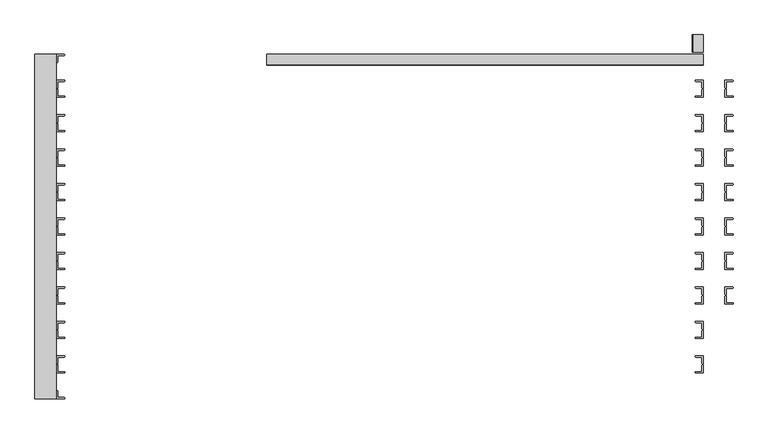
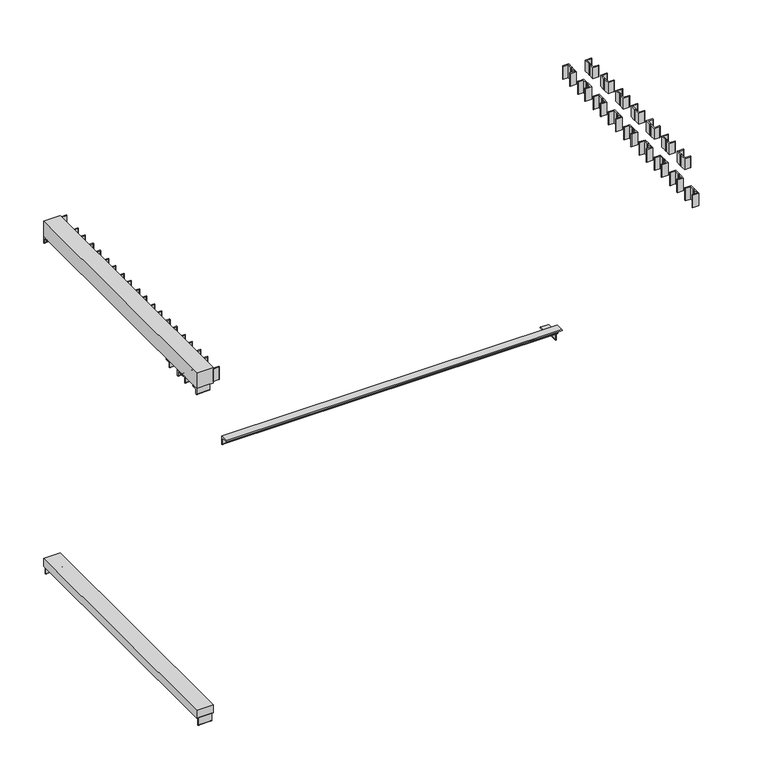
"""IFC4 building model written with IfcOpenShell, lengths in millimetres: proxy geometry, Ponto de ônibus_final : Ponto de ônibus_final."""

from ifc_helpers import new_model, si_unit, point, frame, frame_2d, origin, place, context, project, spatial, polyline, circle_curve, trimmed, segment, composite_curve, outline, extrude, source, transform, mapped, element, save


def generic_models_5568da9d(model_context):
    return source(origin(), model_context, "Body", "SweptSolid", [
        extrude(outline(composite_curve([segment(polyline([(-1420.0, 2165.075), (-1420.0, 2200.0), (-1385.075, 2200.0)]), True, "CONTINUOUS"), segment(trimmed(circle_curve(frame_2d((-1385.075, 2196.825)), 3.175), [point((-1385.075, 2200.0))], [point((-1385.075, 2193.65))], False, "CARTESIAN"), True, "CONTINUOUS"), segment(polyline([(-1385.075, 2193.65), (-1413.65, 2193.65), (-1413.65, 2165.075)]), True, "CONTINUOUS"), segment(trimmed(circle_curve(frame_2d((-1416.825, 2165.075)), 3.175), [point((-1413.65, 2165.075))], [point((-1420.0, 2165.075))], False, "CARTESIAN"), True, "CONTINUOUS")], self_intersect=False)), frame((-2100.0, 0.0, 0.0), z_axis=(1.0, 0.0, 0.0), x_axis=(0.0, 1.0, 0.0)), (0.0, 0.0, 1.0), 70.0),
        extrude(outline(composite_curve([segment(trimmed(circle_curve(frame_2d((-1503.175, 2165.075)), 3.175), [point((-1500.0, 2165.075))], [point((-1506.35, 2165.075))], False, "CARTESIAN"), True, "CONTINUOUS"), segment(polyline([(-1506.35, 2165.075), (-1506.35, 2193.65), (-1534.925, 2193.65)]), True, "CONTINUOUS"), segment(trimmed(circle_curve(frame_2d((-1534.925, 2196.825)), 3.175), [point((-1534.925, 2193.65))], [point((-1534.925, 2200.0))], False, "CARTESIAN"), True, "CONTINUOUS"), segment(polyline([(-1534.925, 2200.0), (-1500.0, 2200.0), (-1500.0, 2165.075)]), True, "CONTINUOUS")], self_intersect=False)), frame((-2100.1200113, 0.0, 0.0), z_axis=(1.0, 0.0, 0.0), x_axis=(0.0, 1.0, 0.0)), (0.0, 0.0, 1.0), 70.1200113),
        extrude(outline(composite_curve([segment(polyline([(-1580.0, 2165.075), (-1580.0, 2200.0), (-1545.075, 2200.0)]), True, "CONTINUOUS"), segment(trimmed(circle_curve(frame_2d((-1545.075, 2196.825)), 3.175), [point((-1545.075, 2200.0))], [point((-1545.075, 2193.65))], False, "CARTESIAN"), True, "CONTINUOUS"), segment(polyline([(-1545.075, 2193.65), (-1573.65, 2193.65), (-1573.65, 2165.075)]), True, "CONTINUOUS"), segment(trimmed(circle_curve(frame_2d((-1576.825, 2165.075)), 3.175), [point((-1573.65, 2165.075))], [point((-1580.0, 2165.075))], False, "CARTESIAN"), True, "CONTINUOUS")], self_intersect=False)), frame((-2100.0, 0.0, 0.0), z_axis=(1.0, 0.0, 0.0), x_axis=(0.0, 1.0, 0.0)), (0.0, 0.0, 1.0), 70.0),
        extrude(outline(composite_curve([segment(trimmed(circle_curve(frame_2d((-103.175, 2165.075)), 3.175), [point((-100.0, 2165.075))], [point((-106.35, 2165.075))], False, "CARTESIAN"), True, "CONTINUOUS"), segment(polyline([(-106.35, 2165.075), (-106.35, 2193.65), (-134.925, 2193.65)]), True, "CONTINUOUS"), segment(trimmed(circle_curve(frame_2d((-134.925, 2196.825)), 3.175), [point((-134.925, 2193.65))], [point((-134.925, 2200.0))], False, "CARTESIAN"), True, "CONTINUOUS"), segment(polyline([(-134.925, 2200.0), (-100.0, 2200.0), (-100.0, 2165.075)]), True, "CONTINUOUS")], self_intersect=False)), frame((-2100.1200113, 0.0, 0.0), z_axis=(1.0, 0.0, 0.0), x_axis=(0.0, 1.0, 0.0)), (0.0, 0.0, 1.0), 80.2400226),
        extrude(outline(composite_curve([segment(polyline([(-1700.0, 2165.075), (-1700.0, 2200.0), (-1665.075, 2200.0)]), True, "CONTINUOUS"), segment(trimmed(circle_curve(frame_2d((-1665.075, 2196.825)), 3.175), [point((-1665.075, 2200.0))], [point((-1665.075, 2193.65))], False, "CARTESIAN"), True, "CONTINUOUS"), segment(polyline([(-1665.075, 2193.65), (-1693.65, 2193.65), (-1693.65, 2165.075)]), True, "CONTINUOUS"), segment(trimmed(circle_curve(frame_2d((-1696.825, 2165.075)), 3.175), [point((-1693.65, 2165.075))], [point((-1700.0, 2165.075))], False, "CARTESIAN"), True, "CONTINUOUS")], self_intersect=False)), frame((-2100.0, 0.0, 0.0), z_axis=(1.0, 0.0, 0.0), x_axis=(0.0, 1.0, 0.0)), (0.0, 0.0, 1.0), 80.0),
        extrude(outline(composite_curve([segment(trimmed(circle_curve(frame_2d((-1965.075, -223.175)), 3.175), [point((-1965.075, -220.0))], [point((-1965.075, -226.35))], False, "CARTESIAN"), True, "CONTINUOUS"), segment(polyline([(-1965.075, -226.35), (-1993.65, -226.35), (-1993.65, -254.925)]), True, "CONTINUOUS"), segment(trimmed(circle_curve(frame_2d((-1996.825, -254.925)), 3.175), [point((-1993.65, -254.925))], [point((-2000.0, -254.925))], False, "CARTESIAN"), True, "CONTINUOUS"), segment(polyline([(-2000.0, -254.925), (-2000.0, -220.0), (-1965.075, -220.0)]), True, "CONTINUOUS")], self_intersect=False)), frame((0.0, 0.0, 2209.8799887), z_axis=(0.0, 0.0, 1.0), x_axis=(1.0, 0.0, 0.0)), (0.0, 0.0, 1.0), 70.1200113),
        extrude(outline(composite_curve([segment(polyline([(-1965.075, -300.0), (-2000.0, -300.0), (-2000.0, -265.075)]), True, "CONTINUOUS"), segment(trimmed(circle_curve(frame_2d((-1996.825, -265.075)), 3.175), [point((-2000.0, -265.075))], [point((-1993.65, -265.075))], False, "CARTESIAN"), True, "CONTINUOUS"), segment(polyline([(-1993.65, -265.075), (-1993.65, -293.65), (-1965.075, -293.65)]), True, "CONTINUOUS"), segment(trimmed(circle_curve(frame_2d((-1965.075, -296.825)), 3.175), [point((-1965.075, -293.65))], [point((-1965.075, -300.0))], False, "CARTESIAN"), True, "CONTINUOUS")], self_intersect=False)), frame((0.0, 0.0, 2210.0), z_axis=(0.0, 0.0, 1.0), x_axis=(1.0, 0.0, 0.0)), (0.0, 0.0, 1.0), 70.0),
        extrude(outline(composite_curve([segment(trimmed(circle_curve(frame_2d((-1965.075, -383.175)), 3.175), [point((-1965.075, -380.0))], [point((-1965.075, -386.35))], False, "CARTESIAN"), True, "CONTINUOUS"), segment(polyline([(-1965.075, -386.35), (-1993.65, -386.35), (-1993.65, -414.925)]), True, "CONTINUOUS"), segment(trimmed(circle_curve(frame_2d((-1996.825, -414.925)), 3.175), [point((-1993.65, -414.925))], [point((-2000.0, -414.925))], False, "CARTESIAN"), True, "CONTINUOUS"), segment(polyline([(-2000.0, -414.925), (-2000.0, -380.0), (-1965.075, -380.0)]), True, "CONTINUOUS")], self_intersect=False)), frame((0.0, 0.0, 2209.8799887), z_axis=(0.0, 0.0, 1.0), x_axis=(1.0, 0.0, 0.0)), (0.0, 0.0, 1.0), 70.1200113),
        extrude(outline(composite_curve([segment(polyline([(-1965.075, -460.0), (-2000.0, -460.0), (-2000.0, -425.075)]), True, "CONTINUOUS"), segment(trimmed(circle_curve(frame_2d((-1996.825, -425.075)), 3.175), [point((-2000.0, -425.075))], [point((-1993.65, -425.075))], False, "CARTESIAN"), True, "CONTINUOUS"), segment(polyline([(-1993.65, -425.075), (-1993.65, -453.65), (-1965.075, -453.65)]), True, "CONTINUOUS"), segment(trimmed(circle_curve(frame_2d((-1965.075, -456.825)), 3.175), [point((-1965.075, -453.65))], [point((-1965.075, -460.0))], False, "CARTESIAN"), True, "CONTINUOUS")], self_intersect=False)), frame((0.0, 0.0, 2210.0), z_axis=(0.0, 0.0, 1.0), x_axis=(1.0, 0.0, 0.0)), (0.0, 0.0, 1.0), 70.0),
        extrude(outline(composite_curve([segment(trimmed(circle_curve(frame_2d((-1965.075, -543.175)), 3.175), [point((-1965.075, -540.0))], [point((-1965.075, -546.35))], False, "CARTESIAN"), True, "CONTINUOUS"), segment(polyline([(-1965.075, -546.35), (-1993.65, -546.35), (-1993.65, -574.925)]), True, "CONTINUOUS"), segment(trimmed(circle_curve(frame_2d((-1996.825, -574.925)), 3.175), [point((-1993.65, -574.925))], [point((-2000.0, -574.925))], False, "CARTESIAN"), True, "CONTINUOUS"), segment(polyline([(-2000.0, -574.925), (-2000.0, -540.0), (-1965.075, -540.0)]), True, "CONTINUOUS")], self_intersect=False)), frame((0.0, 0.0, 2209.8799887), z_axis=(0.0, 0.0, 1.0), x_axis=(1.0, 0.0, 0.0)), (0.0, 0.0, 1.0), 70.1200113),
        extrude(outline(composite_curve([segment(polyline([(-1965.075, -620.0), (-2000.0, -620.0), (-2000.0, -585.075)]), True, "CONTINUOUS"), segment(trimmed(circle_curve(frame_2d((-1996.825, -585.075)), 3.175), [point((-2000.0, -585.075))], [point((-1993.65, -585.075))], False, "CARTESIAN"), True, "CONTINUOUS"), segment(polyline([(-1993.65, -585.075), (-1993.65, -613.65), (-1965.075, -613.65)]), True, "CONTINUOUS"), segment(trimmed(circle_curve(frame_2d((-1965.075, -616.825)), 3.175), [point((-1965.075, -613.65))], [point((-1965.075, -620.0))], False, "CARTESIAN"), True, "CONTINUOUS")], self_intersect=False)), frame((0.0, 0.0, 2210.0), z_axis=(0.0, 0.0, 1.0), x_axis=(1.0, 0.0, 0.0)), (0.0, 0.0, 1.0), 70.0),
        extrude(outline(composite_curve([segment(trimmed(circle_curve(frame_2d((-1965.075, -703.175)), 3.175), [point((-1965.075, -700.0))], [point((-1965.075, -706.35))], False, "CARTESIAN"), True, "CONTINUOUS"), segment(polyline([(-1965.075, -706.35), (-1993.65, -706.35), (-1993.65, -734.925)]), True, "CONTINUOUS"), segment(trimmed(circle_curve(frame_2d((-1996.825, -734.925)), 3.175), [point((-1993.65, -734.925))], [point((-2000.0, -734.925))], False, "CARTESIAN"), True, "CONTINUOUS"), segment(polyline([(-2000.0, -734.925), (-2000.0, -700.0), (-1965.075, -700.0)]), True, "CONTINUOUS")], self_intersect=False)), frame((0.0, 0.0, 2209.8799887), z_axis=(0.0, 0.0, 1.0), x_axis=(1.0, 0.0, 0.0)), (0.0, 0.0, 1.0), 70.1200113),
        extrude(outline(composite_curve([segment(polyline([(-1965.075, -780.0), (-2000.0, -780.0), (-2000.0, -745.075)]), True, "CONTINUOUS"), segment(trimmed(circle_curve(frame_2d((-1996.825, -745.075)), 3.175), [point((-2000.0, -745.075))], [point((-1993.65, -745.075))], False, "CARTESIAN"), True, "CONTINUOUS"), segment(polyline([(-1993.65, -745.075), (-1993.65, -773.65), (-1965.075, -773.65)]), True, "CONTINUOUS"), segment(trimmed(circle_curve(frame_2d((-1965.075, -776.825)), 3.175), [point((-1965.075, -773.65))], [point((-1965.075, -780.0))], False, "CARTESIAN"), True, "CONTINUOUS")], self_intersect=False)), frame((0.0, 0.0, 2210.0), z_axis=(0.0, 0.0, 1.0), x_axis=(1.0, 0.0, 0.0)), (0.0, 0.0, 1.0), 70.0),
        extrude(outline(composite_curve([segment(trimmed(circle_curve(frame_2d((-1965.075, -863.175)), 3.175), [point((-1965.075, -860.0))], [point((-1965.075, -866.35))], False, "CARTESIAN"), True, "CONTINUOUS"), segment(polyline([(-1965.075, -866.35), (-1993.65, -866.35), (-1993.65, -894.925)]), True, "CONTINUOUS"), segment(trimmed(circle_curve(frame_2d((-1996.825, -894.925)), 3.175), [point((-1993.65, -894.925))], [point((-2000.0, -894.925))], False, "CARTESIAN"), True, "CONTINUOUS"), segment(polyline([(-2000.0, -894.925), (-2000.0, -860.0), (-1965.075, -860.0)]), True, "CONTINUOUS")], self_intersect=False)), frame((0.0, 0.0, 2209.8799887), z_axis=(0.0, 0.0, 1.0), x_axis=(1.0, 0.0, 0.0)), (0.0, 0.0, 1.0), 70.1200113),
        extrude(outline(composite_curve([segment(polyline([(-1965.075, -940.0), (-2000.0, -940.0), (-2000.0, -905.075)]), True, "CONTINUOUS"), segment(trimmed(circle_curve(frame_2d((-1996.825, -905.075)), 3.175), [point((-2000.0, -905.075))], [point((-1993.65, -905.075))], False, "CARTESIAN"), True, "CONTINUOUS"), segment(polyline([(-1993.65, -905.075), (-1993.65, -933.65), (-1965.075, -933.65)]), True, "CONTINUOUS"), segment(trimmed(circle_curve(frame_2d((-1965.075, -936.825)), 3.175), [point((-1965.075, -933.65))], [point((-1965.075, -940.0))], False, "CARTESIAN"), True, "CONTINUOUS")], self_intersect=False)), frame((0.0, 0.0, 2210.0), z_axis=(0.0, 0.0, 1.0), x_axis=(1.0, 0.0, 0.0)), (0.0, 0.0, 1.0), 70.0),
        extrude(outline(composite_curve([segment(trimmed(circle_curve(frame_2d((-1965.075, -1023.175)), 3.175), [point((-1965.075, -1020.0))], [point((-1965.075, -1026.35))], False, "CARTESIAN"), True, "CONTINUOUS"), segment(polyline([(-1965.075, -1026.35), (-1993.65, -1026.35), (-1993.65, -1054.925)]), True, "CONTINUOUS"), segment(trimmed(circle_curve(frame_2d((-1996.825, -1054.925)), 3.175), [point((-1993.65, -1054.925))], [point((-2000.0, -1054.925))], False, "CARTESIAN"), True, "CONTINUOUS"), segment(polyline([(-2000.0, -1054.925), (-2000.0, -1020.0), (-1965.075, -1020.0)]), True, "CONTINUOUS")], self_intersect=False)), frame((0.0, 0.0, 2209.8799887), z_axis=(0.0, 0.0, 1.0), x_axis=(1.0, 0.0, 0.0)), (0.0, 0.0, 1.0), 70.1200113),
        extrude(outline(composite_curve([segment(polyline([(-1965.075, -1100.0), (-2000.0, -1100.0), (-2000.0, -1065.075)]), True, "CONTINUOUS"), segment(trimmed(circle_curve(frame_2d((-1996.825, -1065.075)), 3.175), [point((-2000.0, -1065.075))], [point((-1993.65, -1065.075))], False, "CARTESIAN"), True, "CONTINUOUS"), segment(polyline([(-1993.65, -1065.075), (-1993.65, -1093.65), (-1965.075, -1093.65)]), True, "CONTINUOUS"), segment(trimmed(circle_curve(frame_2d((-1965.075, -1096.825)), 3.175), [point((-1965.075, -1093.65))], [point((-1965.075, -1100.0))], False, "CARTESIAN"), True, "CONTINUOUS")], self_intersect=False)), frame((0.0, 0.0, 2210.0), z_axis=(0.0, 0.0, 1.0), x_axis=(1.0, 0.0, 0.0)), (0.0, 0.0, 1.0), 70.0),
        extrude(outline(composite_curve([segment(trimmed(circle_curve(frame_2d((-1965.075, -1183.175)), 3.175), [point((-1965.075, -1180.0))], [point((-1965.075, -1186.35))], False, "CARTESIAN"), True, "CONTINUOUS"), segment(polyline([(-1965.075, -1186.35), (-1993.65, -1186.35), (-1993.65, -1214.925)]), True, "CONTINUOUS"), segment(trimmed(circle_curve(frame_2d((-1996.825, -1214.925)), 3.175), [point((-1993.65, -1214.925))], [point((-2000.0, -1214.925))], False, "CARTESIAN"), True, "CONTINUOUS"), segment(polyline([(-2000.0, -1214.925), (-2000.0, -1180.0), (-1965.075, -1180.0)]), True, "CONTINUOUS")], self_intersect=False)), frame((0.0, 0.0, 2209.8799887), z_axis=(0.0, 0.0, 1.0), x_axis=(1.0, 0.0, 0.0)), (0.0, 0.0, 1.0), 70.1200113),
        extrude(outline(composite_curve([segment(polyline([(-1965.075, -1260.0), (-2000.0, -1260.0), (-2000.0, -1225.075)]), True, "CONTINUOUS"), segment(trimmed(circle_curve(frame_2d((-1996.825, -1225.075)), 3.175), [point((-2000.0, -1225.075))], [point((-1993.65, -1225.075))], False, "CARTESIAN"), True, "CONTINUOUS"), segment(polyline([(-1993.65, -1225.075), (-1993.65, -1253.65), (-1965.075, -1253.65)]), True, "CONTINUOUS"), segment(trimmed(circle_curve(frame_2d((-1965.075, -1256.825)), 3.175), [point((-1965.075, -1253.65))], [point((-1965.075, -1260.0))], False, "CARTESIAN"), True, "CONTINUOUS")], self_intersect=False)), frame((0.0, 0.0, 2210.0), z_axis=(0.0, 0.0, 1.0), x_axis=(1.0, 0.0, 0.0)), (0.0, 0.0, 1.0), 70.0),
        extrude(outline(composite_curve([segment(trimmed(circle_curve(frame_2d((-1965.075, -1343.175)), 3.175), [point((-1965.075, -1340.0))], [point((-1965.075, -1346.35))], False, "CARTESIAN"), True, "CONTINUOUS"), segment(polyline([(-1965.075, -1346.35), (-1993.65, -1346.35), (-1993.65, -1374.925)]), True, "CONTINUOUS"), segment(trimmed(circle_curve(frame_2d((-1996.825, -1374.925)), 3.175), [point((-1993.65, -1374.925))], [point((-2000.0, -1374.925))], False, "CARTESIAN"), True, "CONTINUOUS"), segment(polyline([(-2000.0, -1374.925), (-2000.0, -1340.0), (-1965.075, -1340.0)]), True, "CONTINUOUS")], self_intersect=False)), frame((0.0, 0.0, 2209.8799887), z_axis=(0.0, 0.0, 1.0), x_axis=(1.0, 0.0, 0.0)), (0.0, 0.0, 1.0), 70.1200113),
        extrude(outline(composite_curve([segment(polyline([(-1965.075, -1420.0), (-2000.0, -1420.0), (-2000.0, -1385.075)]), True, "CONTINUOUS"), segment(trimmed(circle_curve(frame_2d((-1996.825, -1385.075)), 3.175), [point((-2000.0, -1385.075))], [point((-1993.65, -1385.075))], False, "CARTESIAN"), True, "CONTINUOUS"), segment(polyline([(-1993.65, -1385.075), (-1993.65, -1413.65), (-1965.075, -1413.65)]), True, "CONTINUOUS"), segment(trimmed(circle_curve(frame_2d((-1965.075, -1416.825)), 3.175), [point((-1965.075, -1413.65))], [point((-1965.075, -1420.0))], False, "CARTESIAN"), True, "CONTINUOUS")], self_intersect=False)), frame((0.0, 0.0, 2210.0), z_axis=(0.0, 0.0, 1.0), x_axis=(1.0, 0.0, 0.0)), (0.0, 0.0, 1.0), 70.0),
        extrude(outline(composite_curve([segment(trimmed(circle_curve(frame_2d((-1965.075, -1503.175)), 3.175), [point((-1965.075, -1500.0))], [point((-1965.075, -1506.35))], False, "CARTESIAN"), True, "CONTINUOUS"), segment(polyline([(-1965.075, -1506.35), (-1993.65, -1506.35), (-1993.65, -1534.925)]), True, "CONTINUOUS"), segment(trimmed(circle_curve(frame_2d((-1996.825, -1534.925)), 3.175), [point((-1993.65, -1534.925))], [point((-2000.0, -1534.925))], False, "CARTESIAN"), True, "CONTINUOUS"), segment(polyline([(-2000.0, -1534.925), (-2000.0, -1500.0), (-1965.075, -1500.0)]), True, "CONTINUOUS")], self_intersect=False)), frame((0.0, 0.0, 2209.8799887), z_axis=(0.0, 0.0, 1.0), x_axis=(1.0, 0.0, 0.0)), (0.0, 0.0, 1.0), 70.1200113),
        extrude(outline(composite_curve([segment(polyline([(-1965.075, -1580.0), (-2000.0, -1580.0), (-2000.0, -1545.075)]), True, "CONTINUOUS"), segment(trimmed(circle_curve(frame_2d((-1996.825, -1545.075)), 3.175), [point((-2000.0, -1545.075))], [point((-1993.65, -1545.075))], False, "CARTESIAN"), True, "CONTINUOUS"), segment(polyline([(-1993.65, -1545.075), (-1993.65, -1573.65), (-1965.075, -1573.65)]), True, "CONTINUOUS"), segment(trimmed(circle_curve(frame_2d((-1965.075, -1576.825)), 3.175), [point((-1965.075, -1573.65))], [point((-1965.075, -1580.0))], False, "CARTESIAN"), True, "CONTINUOUS")], self_intersect=False)), frame((0.0, 0.0, 2210.0), z_axis=(0.0, 0.0, 1.0), x_axis=(1.0, 0.0, 0.0)), (0.0, 0.0, 1.0), 70.0),
        extrude(outline(composite_curve([segment(trimmed(circle_curve(frame_2d((-1965.075, -103.175)), 3.175), [point((-1965.075, -100.0))], [point((-1965.075, -106.35))], False, "CARTESIAN"), True, "CONTINUOUS"), segment(polyline([(-1965.075, -106.35), (-1993.65, -106.35), (-1993.65, -134.925)]), True, "CONTINUOUS"), segment(trimmed(circle_curve(frame_2d((-1996.825, -134.925)), 3.175), [point((-1993.65, -134.925))], [point((-2000.0, -134.925))], False, "CARTESIAN"), True, "CONTINUOUS"), segment(polyline([(-2000.0, -134.925), (-2000.0, -100.0), (-1965.075, -100.0)]), True, "CONTINUOUS")], self_intersect=False)), frame((0.0, 0.0, 2209.8799887), z_axis=(0.0, 0.0, 1.0), x_axis=(1.0, 0.0, 0.0)), (0.0, 0.0, 1.0), 80.2400226),
        extrude(outline(composite_curve([segment(polyline([(-1965.075, -1700.0), (-2000.0, -1700.0), (-2000.0, -1665.075)]), True, "CONTINUOUS"), segment(trimmed(circle_curve(frame_2d((-1996.825, -1665.075)), 3.175), [point((-2000.0, -1665.075))], [point((-1993.65, -1665.075))], False, "CARTESIAN"), True, "CONTINUOUS"), segment(polyline([(-1993.65, -1665.075), (-1993.65, -1693.65), (-1965.075, -1693.65)]), True, "CONTINUOUS"), segment(trimmed(circle_curve(frame_2d((-1965.075, -1696.825)), 3.175), [point((-1965.075, -1693.65))], [point((-1965.075, -1700.0))], False, "CARTESIAN"), True, "CONTINUOUS")], self_intersect=False)), frame((0.0, 0.0, 2210.0), z_axis=(0.0, 0.0, 1.0), x_axis=(1.0, 0.0, 0.0)), (0.0, 0.0, 1.0), 80.0),
        extrude(outline(polyline([(-2000.0, -1700.0), (-2100.0, -1700.0), (-2100.0, -100.0), (-2000.0, -100.0), (-2000.0, -1700.0)])), frame((0.0, 0.0, 2200.0), z_axis=(0.0, 0.0, 1.0), x_axis=(1.0, 0.0, 0.0)), (0.0, 0.0, 1.0), 100.0),
        extrude(outline(composite_curve([segment(trimmed(circle_curve(frame_2d((496.825, 952.375)), 3.175), [point((500.0, 952.375))], [point((493.65, 952.375))], False, "CARTESIAN"), True, "CONTINUOUS"), segment(polyline([(493.65, 952.375), (493.65, 993.65), (452.375, 993.65)]), True, "CONTINUOUS"), segment(trimmed(circle_curve(frame_2d((452.375, 996.825)), 3.175), [point((452.375, 993.65))], [point((452.375, 1000.0))], False, "CARTESIAN"), True, "CONTINUOUS"), segment(polyline([(452.375, 1000.0), (500.0, 1000.0), (500.0, 952.375)]), True, "CONTINUOUS")], self_intersect=False)), frame((0.0, -90.0, 0.0), z_axis=(0.0, 1.0, 0.0), x_axis=(0.0, 0.0, 1.0)), (0.0, 0.0, 1.0), 80.0),
        extrude(outline(composite_curve([segment(polyline([(-147.625, 96.1574147), (-100.0, 96.1574147), (-100.0, 48.5324147)]), True, "CONTINUOUS"), segment(trimmed(circle_curve(frame_2d((-103.175, 48.5324147)), 3.175), [point((-100.0, 48.5324147))], [point((-106.35, 48.5324147))], False, "CARTESIAN"), True, "CONTINUOUS"), segment(polyline([(-106.35, 48.5324147), (-106.35, 89.8074147), (-147.625, 89.8074147)]), True, "CONTINUOUS"), segment(trimmed(circle_curve(frame_2d((-147.625, 92.9824147)), 3.175), [point((-147.625, 89.8074147))], [point((-147.625, 96.1574147))], False, "CARTESIAN"), True, "CONTINUOUS")], self_intersect=False)), frame((-2090.0, 0.0, 0.0), z_axis=(1.0, 0.0, 0.0), x_axis=(0.0, 1.0, 0.0)), (0.0, 0.0, 1.0), 80.0),
        extrude(outline(composite_curve([segment(trimmed(circle_curve(frame_2d((-1652.375, 92.9824147)), 3.175), [point((-1652.375, 96.1574147))], [point((-1652.375, 89.8074147))], False, "CARTESIAN"), True, "CONTINUOUS"), segment(polyline([(-1652.375, 89.8074147), (-1693.65, 89.8074147), (-1693.65, 48.5324147)]), True, "CONTINUOUS"), segment(trimmed(circle_curve(frame_2d((-1696.825, 48.5324147)), 3.175), [point((-1693.65, 48.5324147))], [point((-1700.0, 48.5324147))], False, "CARTESIAN"), True, "CONTINUOUS"), segment(polyline([(-1700.0, 48.5324147), (-1700.0, 96.1574147), (-1652.375, 96.1574147)]), True, "CONTINUOUS")], self_intersect=False)), frame((-2090.0, 0.0, 0.0), z_axis=(1.0, 0.0, 0.0), x_axis=(0.0, 1.0, 0.0)), (0.0, 0.0, 1.0), 80.0),
        extrude(outline(composite_curve([segment(polyline([(-100.0, 550.0), (-100.0, 502.375)]), True, "CONTINUOUS"), segment(trimmed(circle_curve(frame_2d((-103.175, 502.375)), 3.175), [point((-100.0, 502.375))], [point((-106.35, 502.375))], False, "CARTESIAN"), True, "CONTINUOUS"), segment(polyline([(-106.35, 502.375), (-106.35, 543.65), (-147.625, 543.65)]), True, "CONTINUOUS"), segment(trimmed(circle_curve(frame_2d((-147.625, 546.825)), 3.175), [point((-147.625, 543.65))], [point((-147.625, 550.0))], False, "CARTESIAN"), True, "CONTINUOUS"), segment(polyline([(-147.625, 550.0), (-100.0, 550.0)]), True, "CONTINUOUS")], self_intersect=False)), frame((-1025.3712581, 0.0, 0.0), z_axis=(1.0, 0.0, 0.0), x_axis=(0.0, 1.0, 0.0)), (0.0, 0.0, 1.0), 2025.3712581),
        extrude(outline(polyline([(-2000.0, -1700.0), (-2100.0, -1700.0), (-2100.0, -100.0), (-2000.0, -100.0), (-2000.0, -1700.0)])), frame((0.0, 0.0, 96.1574147), z_axis=(0.0, 0.0, 1.0), x_axis=(1.0, 0.0, 0.0)), (0.0, 0.0, 1.0), 50.0),
        extrude(outline(composite_curve([segment(polyline([(965.075, -220.0), (1000.0, -220.0), (1000.0, -254.925)]), True, "CONTINUOUS"), segment(trimmed(circle_curve(frame_2d((996.825, -254.925)), 3.175), [point((1000.0, -254.925))], [point((993.65, -254.925))], False, "CARTESIAN"), True, "CONTINUOUS"), segment(polyline([(993.65, -254.925), (993.65, -226.35), (965.075, -226.35)]), True, "CONTINUOUS"), segment(trimmed(circle_curve(frame_2d((965.075, -223.175)), 3.175), [point((965.075, -226.35))], [point((965.075, -220.0))], False, "CARTESIAN"), True, "CONTINUOUS")], self_intersect=False)), frame((0.0, 0.0, 2209.8799887), z_axis=(0.0, 0.0, 1.0), x_axis=(1.0, 0.0, 0.0)), (0.0, 0.0, 1.0), 80.2400226),
        extrude(outline(composite_curve([segment(trimmed(circle_curve(frame_2d((965.075, -296.825)), 3.175), [point((965.075, -300.0))], [point((965.075, -293.65))], False, "CARTESIAN"), True, "CONTINUOUS"), segment(polyline([(965.075, -293.65), (993.65, -293.65), (993.65, -265.075)]), True, "CONTINUOUS"), segment(trimmed(circle_curve(frame_2d((996.825, -265.075)), 3.175), [point((993.65, -265.075))], [point((1000.0, -265.075))], False, "CARTESIAN"), True, "CONTINUOUS"), segment(polyline([(1000.0, -265.075), (1000.0, -300.0), (965.075, -300.0)]), True, "CONTINUOUS")], self_intersect=False)), frame((0.0, 0.0, 2210.0), z_axis=(0.0, 0.0, 1.0), x_axis=(1.0, 0.0, 0.0)), (0.0, 0.0, 1.0), 80.0),
        extrude(outline(composite_curve([segment(polyline([(965.075, -380.0), (1000.0, -380.0), (1000.0, -414.925)]), True, "CONTINUOUS"), segment(trimmed(circle_curve(frame_2d((996.825, -414.925)), 3.175), [point((1000.0, -414.925))], [point((993.65, -414.925))], False, "CARTESIAN"), True, "CONTINUOUS"), segment(polyline([(993.65, -414.925), (993.65, -386.35), (965.075, -386.35)]), True, "CONTINUOUS"), segment(trimmed(circle_curve(frame_2d((965.075, -383.175)), 3.175), [point((965.075, -386.35))], [point((965.075, -380.0))], False, "CARTESIAN"), True, "CONTINUOUS")], self_intersect=False)), frame((0.0, 0.0, 2209.8799887), z_axis=(0.0, 0.0, 1.0), x_axis=(1.0, 0.0, 0.0)), (0.0, 0.0, 1.0), 80.2400226),
        extrude(outline(composite_curve([segment(trimmed(circle_curve(frame_2d((965.075, -456.825)), 3.175), [point((965.075, -460.0))], [point((965.075, -453.65))], False, "CARTESIAN"), True, "CONTINUOUS"), segment(polyline([(965.075, -453.65), (993.65, -453.65), (993.65, -425.075)]), True, "CONTINUOUS"), segment(trimmed(circle_curve(frame_2d((996.825, -425.075)), 3.175), [point((993.65, -425.075))], [point((1000.0, -425.075))], False, "CARTESIAN"), True, "CONTINUOUS"), segment(polyline([(1000.0, -425.075), (1000.0, -460.0), (965.075, -460.0)]), True, "CONTINUOUS")], self_intersect=False)), frame((0.0, 0.0, 2210.0), z_axis=(0.0, 0.0, 1.0), x_axis=(1.0, 0.0, 0.0)), (0.0, 0.0, 1.0), 80.0),
        extrude(outline(composite_curve([segment(polyline([(965.075, -540.0), (1000.0, -540.0), (1000.0, -574.925)]), True, "CONTINUOUS"), segment(trimmed(circle_curve(frame_2d((996.825, -574.925)), 3.175), [point((1000.0, -574.925))], [point((993.65, -574.925))], False, "CARTESIAN"), True, "CONTINUOUS"), segment(polyline([(993.65, -574.925), (993.65, -546.35), (965.075, -546.35)]), True, "CONTINUOUS"), segment(trimmed(circle_curve(frame_2d((965.075, -543.175)), 3.175), [point((965.075, -546.35))], [point((965.075, -540.0))], False, "CARTESIAN"), True, "CONTINUOUS")], self_intersect=False)), frame((0.0, 0.0, 2209.8799887), z_axis=(0.0, 0.0, 1.0), x_axis=(1.0, 0.0, 0.0)), (0.0, 0.0, 1.0), 80.2400226),
        extrude(outline(composite_curve([segment(trimmed(circle_curve(frame_2d((965.075, -616.825)), 3.175), [point((965.075, -620.0))], [point((965.075, -613.65))], False, "CARTESIAN"), True, "CONTINUOUS"), segment(polyline([(965.075, -613.65), (993.65, -613.65), (993.65, -585.075)]), True, "CONTINUOUS"), segment(trimmed(circle_curve(frame_2d((996.825, -585.075)), 3.175), [point((993.65, -585.075))], [point((1000.0, -585.075))], False, "CARTESIAN"), True, "CONTINUOUS"), segment(polyline([(1000.0, -585.075), (1000.0, -620.0), (965.075, -620.0)]), True, "CONTINUOUS")], self_intersect=False)), frame((0.0, 0.0, 2210.0), z_axis=(0.0, 0.0, 1.0), x_axis=(1.0, 0.0, 0.0)), (0.0, 0.0, 1.0), 80.0),
        extrude(outline(composite_curve([segment(polyline([(965.075, -700.0), (1000.0, -700.0), (1000.0, -734.925)]), True, "CONTINUOUS"), segment(trimmed(circle_curve(frame_2d((996.825, -734.925)), 3.175), [point((1000.0, -734.925))], [point((993.65, -734.925))], False, "CARTESIAN"), True, "CONTINUOUS"), segment(polyline([(993.65, -734.925), (993.65, -706.35), (965.075, -706.35)]), True, "CONTINUOUS"), segment(trimmed(circle_curve(frame_2d((965.075, -703.175)), 3.175), [point((965.075, -706.35))], [point((965.075, -700.0))], False, "CARTESIAN"), True, "CONTINUOUS")], self_intersect=False)), frame((0.0, 0.0, 2209.8799887), z_axis=(0.0, 0.0, 1.0), x_axis=(1.0, 0.0, 0.0)), (0.0, 0.0, 1.0), 80.2400226),
        extrude(outline(composite_curve([segment(trimmed(circle_curve(frame_2d((965.075, -776.825)), 3.175), [point((965.075, -780.0))], [point((965.075, -773.65))], False, "CARTESIAN"), True, "CONTINUOUS"), segment(polyline([(965.075, -773.65), (993.65, -773.65), (993.65, -745.075)]), True, "CONTINUOUS"), segment(trimmed(circle_curve(frame_2d((996.825, -745.075)), 3.175), [point((993.65, -745.075))], [point((1000.0, -745.075))], False, "CARTESIAN"), True, "CONTINUOUS"), segment(polyline([(1000.0, -745.075), (1000.0, -780.0), (965.075, -780.0)]), True, "CONTINUOUS")], self_intersect=False)), frame((0.0, 0.0, 2210.0), z_axis=(0.0, 0.0, 1.0), x_axis=(1.0, 0.0, 0.0)), (0.0, 0.0, 1.0), 80.0),
        extrude(outline(composite_curve([segment(polyline([(965.075, -860.0), (1000.0, -860.0), (1000.0, -894.925)]), True, "CONTINUOUS"), segment(trimmed(circle_curve(frame_2d((996.825, -894.925)), 3.175), [point((1000.0, -894.925))], [point((993.65, -894.925))], False, "CARTESIAN"), True, "CONTINUOUS"), segment(polyline([(993.65, -894.925), (993.65, -866.35), (965.075, -866.35)]), True, "CONTINUOUS"), segment(trimmed(circle_curve(frame_2d((965.075, -863.175)), 3.175), [point((965.075, -866.35))], [point((965.075, -860.0))], False, "CARTESIAN"), True, "CONTINUOUS")], self_intersect=False)), frame((0.0, 0.0, 2209.8799887), z_axis=(0.0, 0.0, 1.0), x_axis=(1.0, 0.0, 0.0)), (0.0, 0.0, 1.0), 80.2400226),
        extrude(outline(composite_curve([segment(trimmed(circle_curve(frame_2d((965.075, -936.825)), 3.175), [point((965.075, -940.0))], [point((965.075, -933.65))], False, "CARTESIAN"), True, "CONTINUOUS"), segment(polyline([(965.075, -933.65), (993.65, -933.65), (993.65, -905.075)]), True, "CONTINUOUS"), segment(trimmed(circle_curve(frame_2d((996.825, -905.075)), 3.175), [point((993.65, -905.075))], [point((1000.0, -905.075))], False, "CARTESIAN"), True, "CONTINUOUS"), segment(polyline([(1000.0, -905.075), (1000.0, -940.0), (965.075, -940.0)]), True, "CONTINUOUS")], self_intersect=False)), frame((0.0, 0.0, 2210.0), z_axis=(0.0, 0.0, 1.0), x_axis=(1.0, 0.0, 0.0)), (0.0, 0.0, 1.0), 80.0),
        extrude(outline(composite_curve([segment(polyline([(965.075, -1020.0), (1000.0, -1020.0), (1000.0, -1054.925)]), True, "CONTINUOUS"), segment(trimmed(circle_curve(frame_2d((996.825, -1054.925)), 3.175), [point((1000.0, -1054.925))], [point((993.65, -1054.925))], False, "CARTESIAN"), True, "CONTINUOUS"), segment(polyline([(993.65, -1054.925), (993.65, -1026.35), (965.075, -1026.35)]), True, "CONTINUOUS"), segment(trimmed(circle_curve(frame_2d((965.075, -1023.175)), 3.175), [point((965.075, -1026.35))], [point((965.075, -1020.0))], False, "CARTESIAN"), True, "CONTINUOUS")], self_intersect=False)), frame((0.0, 0.0, 2209.8799887), z_axis=(0.0, 0.0, 1.0), x_axis=(1.0, 0.0, 0.0)), (0.0, 0.0, 1.0), 80.2400226),
        extrude(outline(composite_curve([segment(trimmed(circle_curve(frame_2d((965.075, -1096.825)), 3.175), [point((965.075, -1100.0))], [point((965.075, -1093.65))], False, "CARTESIAN"), True, "CONTINUOUS"), segment(polyline([(965.075, -1093.65), (993.65, -1093.65), (993.65, -1065.075)]), True, "CONTINUOUS"), segment(trimmed(circle_curve(frame_2d((996.825, -1065.075)), 3.175), [point((993.65, -1065.075))], [point((1000.0, -1065.075))], False, "CARTESIAN"), True, "CONTINUOUS"), segment(polyline([(1000.0, -1065.075), (1000.0, -1100.0), (965.075, -1100.0)]), True, "CONTINUOUS")], self_intersect=False)), frame((0.0, 0.0, 2210.0), z_axis=(0.0, 0.0, 1.0), x_axis=(1.0, 0.0, 0.0)), (0.0, 0.0, 1.0), 80.0),
        extrude(outline(composite_curve([segment(polyline([(965.075, -1180.0), (1000.0, -1180.0), (1000.0, -1214.925)]), True, "CONTINUOUS"), segment(trimmed(circle_curve(frame_2d((996.825, -1214.925)), 3.175), [point((1000.0, -1214.925))], [point((993.65, -1214.925))], False, "CARTESIAN"), True, "CONTINUOUS"), segment(polyline([(993.65, -1214.925), (993.65, -1186.35), (965.075, -1186.35)]), True, "CONTINUOUS"), segment(trimmed(circle_curve(frame_2d((965.075, -1183.175)), 3.175), [point((965.075, -1186.35))], [point((965.075, -1180.0))], False, "CARTESIAN"), True, "CONTINUOUS")], self_intersect=False)), frame((0.0, 0.0, 2209.8799887), z_axis=(0.0, 0.0, 1.0), x_axis=(1.0, 0.0, 0.0)), (0.0, 0.0, 1.0), 80.2400226),
        extrude(outline(composite_curve([segment(trimmed(circle_curve(frame_2d((965.075, -1256.825)), 3.175), [point((965.075, -1260.0))], [point((965.075, -1253.65))], False, "CARTESIAN"), True, "CONTINUOUS"), segment(polyline([(965.075, -1253.65), (993.65, -1253.65), (993.65, -1225.075)]), True, "CONTINUOUS"), segment(trimmed(circle_curve(frame_2d((996.825, -1225.075)), 3.175), [point((993.65, -1225.075))], [point((1000.0, -1225.075))], False, "CARTESIAN"), True, "CONTINUOUS"), segment(polyline([(1000.0, -1225.075), (1000.0, -1260.0), (965.075, -1260.0)]), True, "CONTINUOUS")], self_intersect=False)), frame((0.0, 0.0, 2210.0), z_axis=(0.0, 0.0, 1.0), x_axis=(1.0, 0.0, 0.0)), (0.0, 0.0, 1.0), 80.0),
        extrude(outline(composite_curve([segment(polyline([(965.075, -1340.0), (1000.0, -1340.0), (1000.0, -1374.925)]), True, "CONTINUOUS"), segment(trimmed(circle_curve(frame_2d((996.825, -1374.925)), 3.175), [point((1000.0, -1374.925))], [point((993.65, -1374.925))], False, "CARTESIAN"), True, "CONTINUOUS"), segment(polyline([(993.65, -1374.925), (993.65, -1346.35), (965.075, -1346.35)]), True, "CONTINUOUS"), segment(trimmed(circle_curve(frame_2d((965.075, -1343.175)), 3.175), [point((965.075, -1346.35))], [point((965.075, -1340.0))], False, "CARTESIAN"), True, "CONTINUOUS")], self_intersect=False)), frame((0.0, 0.0, 2209.8799887), z_axis=(0.0, 0.0, 1.0), x_axis=(1.0, 0.0, 0.0)), (0.0, 0.0, 1.0), 80.2400226),
        extrude(outline(composite_curve([segment(trimmed(circle_curve(frame_2d((965.075, -1416.825)), 3.175), [point((965.075, -1420.0))], [point((965.075, -1413.65))], False, "CARTESIAN"), True, "CONTINUOUS"), segment(polyline([(965.075, -1413.65), (993.65, -1413.65), (993.65, -1385.075)]), True, "CONTINUOUS"), segment(trimmed(circle_curve(frame_2d((996.825, -1385.075)), 3.175), [point((993.65, -1385.075))], [point((1000.0, -1385.075))], False, "CARTESIAN"), True, "CONTINUOUS"), segment(polyline([(1000.0, -1385.075), (1000.0, -1420.0), (965.075, -1420.0)]), True, "CONTINUOUS")], self_intersect=False)), frame((0.0, 0.0, 2210.0), z_axis=(0.0, 0.0, 1.0), x_axis=(1.0, 0.0, 0.0)), (0.0, 0.0, 1.0), 80.0),
        extrude(outline(composite_curve([segment(polyline([(965.075, -1500.0), (1000.0, -1500.0), (1000.0, -1534.925)]), True, "CONTINUOUS"), segment(trimmed(circle_curve(frame_2d((996.825, -1534.925)), 3.175), [point((1000.0, -1534.925))], [point((993.65, -1534.925))], False, "CARTESIAN"), True, "CONTINUOUS"), segment(polyline([(993.65, -1534.925), (993.65, -1506.35), (965.075, -1506.35)]), True, "CONTINUOUS"), segment(trimmed(circle_curve(frame_2d((965.075, -1503.175)), 3.175), [point((965.075, -1506.35))], [point((965.075, -1500.0))], False, "CARTESIAN"), True, "CONTINUOUS")], self_intersect=False)), frame((0.0, 0.0, 2209.8799887), z_axis=(0.0, 0.0, 1.0), x_axis=(1.0, 0.0, 0.0)), (0.0, 0.0, 1.0), 80.2400226),
        extrude(outline(composite_curve([segment(trimmed(circle_curve(frame_2d((965.075, -1576.825)), 3.175), [point((965.075, -1580.0))], [point((965.075, -1573.65))], False, "CARTESIAN"), True, "CONTINUOUS"), segment(polyline([(965.075, -1573.65), (993.65, -1573.65), (993.65, -1545.075)]), True, "CONTINUOUS"), segment(trimmed(circle_curve(frame_2d((996.825, -1545.075)), 3.175), [point((993.65, -1545.075))], [point((1000.0, -1545.075))], False, "CARTESIAN"), True, "CONTINUOUS"), segment(polyline([(1000.0, -1545.075), (1000.0, -1580.0), (965.075, -1580.0)]), True, "CONTINUOUS")], self_intersect=False)), frame((0.0, 0.0, 2210.0), z_axis=(0.0, 0.0, 1.0), x_axis=(1.0, 0.0, 0.0)), (0.0, 0.0, 1.0), 80.0),
        extrude(outline(composite_curve([segment(trimmed(circle_curve(frame_2d((1134.925, -223.175)), 3.175), [point((1134.925, -220.0))], [point((1134.925, -226.35))], False, "CARTESIAN"), True, "CONTINUOUS"), segment(polyline([(1134.925, -226.35), (1106.35, -226.35), (1106.35, -254.925)]), True, "CONTINUOUS"), segment(trimmed(circle_curve(frame_2d((1103.175, -254.925)), 3.175), [point((1106.35, -254.925))], [point((1100.0, -254.925))], False, "CARTESIAN"), True, "CONTINUOUS"), segment(polyline([(1100.0, -254.925), (1100.0, -220.0), (1134.925, -220.0)]), True, "CONTINUOUS")], self_intersect=False)), frame((0.0, 0.0, 2209.8799887), z_axis=(0.0, 0.0, 1.0), x_axis=(1.0, 0.0, 0.0)), (0.0, 0.0, 1.0), 70.1200113),
        extrude(outline(composite_curve([segment(polyline([(1134.925, -300.0), (1100.0, -300.0), (1100.0, -265.075)]), True, "CONTINUOUS"), segment(trimmed(circle_curve(frame_2d((1103.175, -265.075)), 3.175), [point((1100.0, -265.075))], [point((1106.35, -265.075))], False, "CARTESIAN"), True, "CONTINUOUS"), segment(polyline([(1106.35, -265.075), (1106.35, -293.65), (1134.925, -293.65)]), True, "CONTINUOUS"), segment(trimmed(circle_curve(frame_2d((1134.925, -296.825)), 3.175), [point((1134.925, -293.65))], [point((1134.925, -300.0))], False, "CARTESIAN"), True, "CONTINUOUS")], self_intersect=False)), frame((0.0, 0.0, 2210.0), z_axis=(0.0, 0.0, 1.0), x_axis=(1.0, 0.0, 0.0)), (0.0, 0.0, 1.0), 70.0),
        extrude(outline(composite_curve([segment(trimmed(circle_curve(frame_2d((1134.925, -383.175)), 3.175), [point((1134.925, -380.0))], [point((1134.925, -386.35))], False, "CARTESIAN"), True, "CONTINUOUS"), segment(polyline([(1134.925, -386.35), (1106.35, -386.35), (1106.35, -414.925)]), True, "CONTINUOUS"), segment(trimmed(circle_curve(frame_2d((1103.175, -414.925)), 3.175), [point((1106.35, -414.925))], [point((1100.0, -414.925))], False, "CARTESIAN"), True, "CONTINUOUS"), segment(polyline([(1100.0, -414.925), (1100.0, -380.0), (1134.925, -380.0)]), True, "CONTINUOUS")], self_intersect=False)), frame((0.0, 0.0, 2209.8799887), z_axis=(0.0, 0.0, 1.0), x_axis=(1.0, 0.0, 0.0)), (0.0, 0.0, 1.0), 70.1200113),
        extrude(outline(composite_curve([segment(polyline([(1134.925, -460.0), (1100.0, -460.0), (1100.0, -425.075)]), True, "CONTINUOUS"), segment(trimmed(circle_curve(frame_2d((1103.175, -425.075)), 3.175), [point((1100.0, -425.075))], [point((1106.35, -425.075))], False, "CARTESIAN"), True, "CONTINUOUS"), segment(polyline([(1106.35, -425.075), (1106.35, -453.65), (1134.925, -453.65)]), True, "CONTINUOUS"), segment(trimmed(circle_curve(frame_2d((1134.925, -456.825)), 3.175), [point((1134.925, -453.65))], [point((1134.925, -460.0))], False, "CARTESIAN"), True, "CONTINUOUS")], self_intersect=False)), frame((0.0, 0.0, 2210.0), z_axis=(0.0, 0.0, 1.0), x_axis=(1.0, 0.0, 0.0)), (0.0, 0.0, 1.0), 70.0),
        extrude(outline(composite_curve([segment(trimmed(circle_curve(frame_2d((1134.925, -543.175)), 3.175), [point((1134.925, -540.0))], [point((1134.925, -546.35))], False, "CARTESIAN"), True, "CONTINUOUS"), segment(polyline([(1134.925, -546.35), (1106.35, -546.35), (1106.35, -574.925)]), True, "CONTINUOUS"), segment(trimmed(circle_curve(frame_2d((1103.175, -574.925)), 3.175), [point((1106.35, -574.925))], [point((1100.0, -574.925))], False, "CARTESIAN"), True, "CONTINUOUS"), segment(polyline([(1100.0, -574.925), (1100.0, -540.0), (1134.925, -540.0)]), True, "CONTINUOUS")], self_intersect=False)), frame((0.0, 0.0, 2209.8799887), z_axis=(0.0, 0.0, 1.0), x_axis=(1.0, 0.0, 0.0)), (0.0, 0.0, 1.0), 70.1200113),
        extrude(outline(composite_curve([segment(polyline([(1134.925, -620.0), (1100.0, -620.0), (1100.0, -585.075)]), True, "CONTINUOUS"), segment(trimmed(circle_curve(frame_2d((1103.175, -585.075)), 3.175), [point((1100.0, -585.075))], [point((1106.35, -585.075))], False, "CARTESIAN"), True, "CONTINUOUS"), segment(polyline([(1106.35, -585.075), (1106.35, -613.65), (1134.925, -613.65)]), True, "CONTINUOUS"), segment(trimmed(circle_curve(frame_2d((1134.925, -616.825)), 3.175), [point((1134.925, -613.65))], [point((1134.925, -620.0))], False, "CARTESIAN"), True, "CONTINUOUS")], self_intersect=False)), frame((0.0, 0.0, 2210.0), z_axis=(0.0, 0.0, 1.0), x_axis=(1.0, 0.0, 0.0)), (0.0, 0.0, 1.0), 70.0),
        extrude(outline(composite_curve([segment(trimmed(circle_curve(frame_2d((1134.925, -703.175)), 3.175), [point((1134.925, -700.0))], [point((1134.925, -706.35))], False, "CARTESIAN"), True, "CONTINUOUS"), segment(polyline([(1134.925, -706.35), (1106.35, -706.35), (1106.35, -734.925)]), True, "CONTINUOUS"), segment(trimmed(circle_curve(frame_2d((1103.175, -734.925)), 3.175), [point((1106.35, -734.925))], [point((1100.0, -734.925))], False, "CARTESIAN"), True, "CONTINUOUS"), segment(polyline([(1100.0, -734.925), (1100.0, -700.0), (1134.925, -700.0)]), True, "CONTINUOUS")], self_intersect=False)), frame((0.0, 0.0, 2209.8799887), z_axis=(0.0, 0.0, 1.0), x_axis=(1.0, 0.0, 0.0)), (0.0, 0.0, 1.0), 70.1200113),
        extrude(outline(composite_curve([segment(polyline([(1134.925, -780.0), (1100.0, -780.0), (1100.0, -745.075)]), True, "CONTINUOUS"), segment(trimmed(circle_curve(frame_2d((1103.175, -745.075)), 3.175), [point((1100.0, -745.075))], [point((1106.35, -745.075))], False, "CARTESIAN"), True, "CONTINUOUS"), segment(polyline([(1106.35, -745.075), (1106.35, -773.65), (1134.925, -773.65)]), True, "CONTINUOUS"), segment(trimmed(circle_curve(frame_2d((1134.925, -776.825)), 3.175), [point((1134.925, -773.65))], [point((1134.925, -780.0))], False, "CARTESIAN"), True, "CONTINUOUS")], self_intersect=False)), frame((0.0, 0.0, 2210.0), z_axis=(0.0, 0.0, 1.0), x_axis=(1.0, 0.0, 0.0)), (0.0, 0.0, 1.0), 70.0),
        extrude(outline(composite_curve([segment(trimmed(circle_curve(frame_2d((1134.925, -863.175)), 3.175), [point((1134.925, -860.0))], [point((1134.925, -866.35))], False, "CARTESIAN"), True, "CONTINUOUS"), segment(polyline([(1134.925, -866.35), (1106.35, -866.35), (1106.35, -894.925)]), True, "CONTINUOUS"), segment(trimmed(circle_curve(frame_2d((1103.175, -894.925)), 3.175), [point((1106.35, -894.925))], [point((1100.0, -894.925))], False, "CARTESIAN"), True, "CONTINUOUS"), segment(polyline([(1100.0, -894.925), (1100.0, -860.0), (1134.925, -860.0)]), True, "CONTINUOUS")], self_intersect=False)), frame((0.0, 0.0, 2209.8799887), z_axis=(0.0, 0.0, 1.0), x_axis=(1.0, 0.0, 0.0)), (0.0, 0.0, 1.0), 70.1200113),
        extrude(outline(composite_curve([segment(polyline([(1134.925, -940.0), (1100.0, -940.0), (1100.0, -905.075)]), True, "CONTINUOUS"), segment(trimmed(circle_curve(frame_2d((1103.175, -905.075)), 3.175), [point((1100.0, -905.075))], [point((1106.35, -905.075))], False, "CARTESIAN"), True, "CONTINUOUS"), segment(polyline([(1106.35, -905.075), (1106.35, -933.65), (1134.925, -933.65)]), True, "CONTINUOUS"), segment(trimmed(circle_curve(frame_2d((1134.925, -936.825)), 3.175), [point((1134.925, -933.65))], [point((1134.925, -940.0))], False, "CARTESIAN"), True, "CONTINUOUS")], self_intersect=False)), frame((0.0, 0.0, 2210.0), z_axis=(0.0, 0.0, 1.0), x_axis=(1.0, 0.0, 0.0)), (0.0, 0.0, 1.0), 70.0),
        extrude(outline(composite_curve([segment(trimmed(circle_curve(frame_2d((1134.925, -1023.175)), 3.175), [point((1134.925, -1020.0))], [point((1134.925, -1026.35))], False, "CARTESIAN"), True, "CONTINUOUS"), segment(polyline([(1134.925, -1026.35), (1106.35, -1026.35), (1106.35, -1054.925)]), True, "CONTINUOUS"), segment(trimmed(circle_curve(frame_2d((1103.175, -1054.925)), 3.175), [point((1106.35, -1054.925))], [point((1100.0, -1054.925))], False, "CARTESIAN"), True, "CONTINUOUS"), segment(polyline([(1100.0, -1054.925), (1100.0, -1020.0), (1134.925, -1020.0)]), True, "CONTINUOUS")], self_intersect=False)), frame((0.0, 0.0, 2209.8799887), z_axis=(0.0, 0.0, 1.0), x_axis=(1.0, 0.0, 0.0)), (0.0, 0.0, 1.0), 70.1200113),
        extrude(outline(composite_curve([segment(polyline([(1134.925, -1100.0), (1100.0, -1100.0), (1100.0, -1065.075)]), True, "CONTINUOUS"), segment(trimmed(circle_curve(frame_2d((1103.175, -1065.075)), 3.175), [point((1100.0, -1065.075))], [point((1106.35, -1065.075))], False, "CARTESIAN"), True, "CONTINUOUS"), segment(polyline([(1106.35, -1065.075), (1106.35, -1093.65), (1134.925, -1093.65)]), True, "CONTINUOUS"), segment(trimmed(circle_curve(frame_2d((1134.925, -1096.825)), 3.175), [point((1134.925, -1093.65))], [point((1134.925, -1100.0))], False, "CARTESIAN"), True, "CONTINUOUS")], self_intersect=False)), frame((0.0, 0.0, 2210.0), z_axis=(0.0, 0.0, 1.0), x_axis=(1.0, 0.0, 0.0)), (0.0, 0.0, 1.0), 70.0),
        extrude(outline(composite_curve([segment(trimmed(circle_curve(frame_2d((1134.925, -1183.175)), 3.175), [point((1134.925, -1180.0))], [point((1134.925, -1186.35))], False, "CARTESIAN"), True, "CONTINUOUS"), segment(polyline([(1134.925, -1186.35), (1106.35, -1186.35), (1106.35, -1214.925)]), True, "CONTINUOUS"), segment(trimmed(circle_curve(frame_2d((1103.175, -1214.925)), 3.175), [point((1106.35, -1214.925))], [point((1100.0, -1214.925))], False, "CARTESIAN"), True, "CONTINUOUS"), segment(polyline([(1100.0, -1214.925), (1100.0, -1180.0), (1134.925, -1180.0)]), True, "CONTINUOUS")], self_intersect=False)), frame((0.0, 0.0, 2209.8799887), z_axis=(0.0, 0.0, 1.0), x_axis=(1.0, 0.0, 0.0)), (0.0, 0.0, 1.0), 70.1200113),
        extrude(outline(composite_curve([segment(polyline([(1134.925, -1260.0), (1100.0, -1260.0), (1100.0, -1225.075)]), True, "CONTINUOUS"), segment(trimmed(circle_curve(frame_2d((1103.175, -1225.075)), 3.175), [point((1100.0, -1225.075))], [point((1106.35, -1225.075))], False, "CARTESIAN"), True, "CONTINUOUS"), segment(polyline([(1106.35, -1225.075), (1106.35, -1253.65), (1134.925, -1253.65)]), True, "CONTINUOUS"), segment(trimmed(circle_curve(frame_2d((1134.925, -1256.825)), 3.175), [point((1134.925, -1253.65))], [point((1134.925, -1260.0))], False, "CARTESIAN"), True, "CONTINUOUS")], self_intersect=False)), frame((0.0, 0.0, 2210.0), z_axis=(0.0, 0.0, 1.0), x_axis=(1.0, 0.0, 0.0)), (0.0, 0.0, 1.0), 70.0),
    ])


if __name__ == "__main__":
    model = new_model("IFC4")
    model_context = context("Model", 3, world=origin())
    ifc_project = project(units=[si_unit("LENGTHUNIT", "METRE", prefix="MILLI")], contexts=[model_context])
    site = spatial("IfcSite", under=ifc_project)
    building = spatial("IfcBuilding", under=site)
    placement = place(None, origin())
    generic_models_shape = generic_models_5568da9d(model_context)
    element("IfcBuildingElementProxy", 1, Name="Ponto de ônibus_final : Ponto de ônibus_final", ObjectType="Ponto de ônibus_final : Ponto de ônibus_final", at=placement, inside=building, context=model_context, shape_type="MappedRepresentation", body=[
        mapped(generic_models_shape, transform((0.0, 0.0, 0.0), x_axis=(1.0, 0.0, 0.0), y_axis=(0.0, 1.0, 0.0), z_axis=(0.0, 0.0, 1.0))),
    ])
    save(model, "model.ifc")
